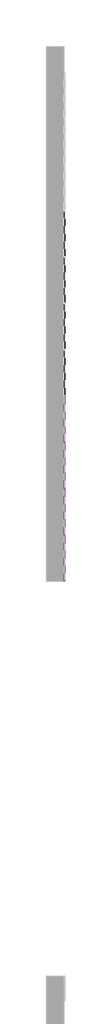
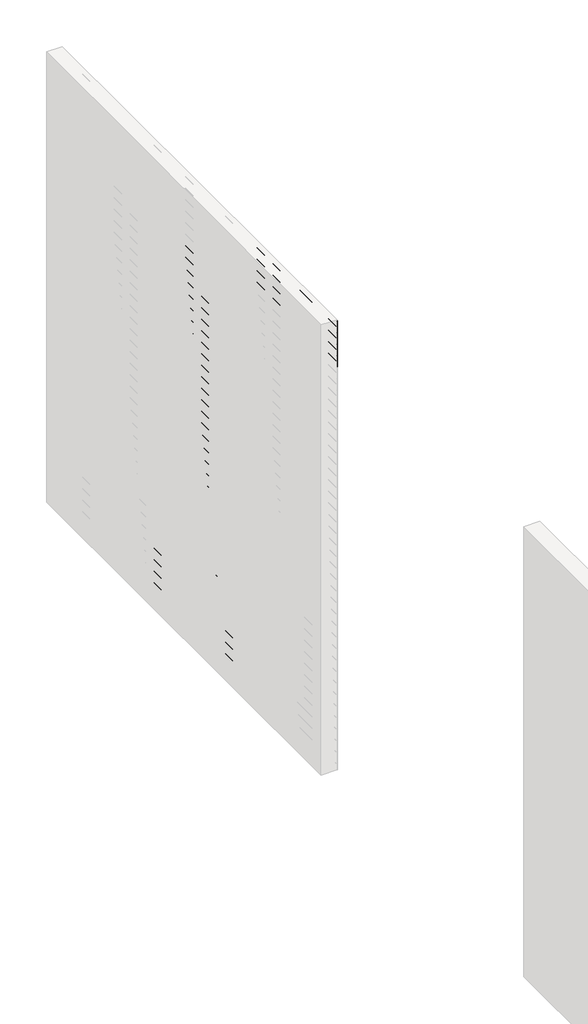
# One storey, part 13 of 45: 147 proxies.
"""IFC4 building model written with IfcOpenShell, lengths in millimetres."""

from ifc_helpers import new_model, si_unit, origin, place, context, project, spatial, transform, mapped, element, save
from components import generic_models_c1e678a0

model = new_model("IFC4")

# Units and contexts
model_context = context("Model", 3, world=origin())
ifc_project = project(units=[si_unit("LENGTHUNIT", "METRE", prefix="MILLI")], contexts=[model_context])

# Site, building, storey
site = spatial("IfcSite", under=ifc_project)
building = spatial("IfcBuilding", under=site)
storey = spatial("IfcBuildingStorey", under=building, Name="PORTOBELLO - SHOWROOM", Elevation=0.0)

# Proxies
placement = place(None, origin())
generic_models_shape = generic_models_c1e678a0(model_context)
element("IfcBuildingElementProxy", 1, Name="PBSHOP - HORIZONTES TULUM 6,5X23 : TULUM FENDA", ObjectType="PBSHOP - HORIZONTES TULUM 6,5X23 : TULUM FENDA", at=placement, inside=storey, context=model_context, shape_type="MappedRepresentation", body=[
    mapped(generic_models_shape, transform((63939.1036979, 16122.0588567, 34.5), x_axis=(0.0, 0.0, 1.0), y_axis=(0.0, -1.0, 0.0), z_axis=(1.0, 0.0, 0.0))),
])
element("IfcBuildingElementProxy", 2, Name="PBSHOP - HORIZONTES TULUM 6,5X23 : TULUM FENDA", ObjectType="PBSHOP - HORIZONTES TULUM 6,5X23 : TULUM FENDA", at=placement, inside=storey, context=model_context, shape_type="MappedRepresentation", body=[
    mapped(generic_models_shape, transform((63939.1036979, 16356.0588567, 34.5), x_axis=(0.0, 0.0, 1.0), y_axis=(0.0, -1.0, 0.0), z_axis=(1.0, 0.0, 0.0))),
])
element("IfcBuildingElementProxy", 3, Name="PBSHOP - HORIZONTES TULUM 6,5X23 : TULUM FENDA", ObjectType="PBSHOP - HORIZONTES TULUM 6,5X23 : TULUM FENDA", at=placement, inside=storey, context=model_context, shape_type="MappedRepresentation", body=[
    mapped(generic_models_shape, transform((63939.1036979, 16590.0588567, 34.5), x_axis=(0.0, 0.0, 1.0), y_axis=(0.0, -1.0, 0.0), z_axis=(1.0, 0.0, 0.0))),
])
element("IfcBuildingElementProxy", 4, Name="PBSHOP - HORIZONTES TULUM 6,5X23 : TULUM FENDA", ObjectType="PBSHOP - HORIZONTES TULUM 6,5X23 : TULUM FENDA", at=placement, inside=storey, context=model_context, shape_type="MappedRepresentation", body=[
    mapped(generic_models_shape, transform((63939.1036979, 16824.0588567, 34.5), x_axis=(0.0, 0.0, 1.0), y_axis=(0.0, -1.0, 0.0), z_axis=(1.0, 0.0, 0.0))),
])
element("IfcBuildingElementProxy", 5, Name="PBSHOP - HORIZONTES TULUM 6,5X23 : TULUM FENDA", ObjectType="PBSHOP - HORIZONTES TULUM 6,5X23 : TULUM FENDA", at=placement, inside=storey, context=model_context, shape_type="MappedRepresentation", body=[
    mapped(generic_models_shape, transform((63939.1036979, 16122.0588567, 103.5), x_axis=(0.0, 0.0, 1.0), y_axis=(0.0, -1.0, 0.0), z_axis=(1.0, 0.0, 0.0))),
])
element("IfcBuildingElementProxy", 6, Name="PBSHOP - HORIZONTES TULUM 6,5X23 : TULUM FENDA", ObjectType="PBSHOP - HORIZONTES TULUM 6,5X23 : TULUM FENDA", at=placement, inside=storey, context=model_context, shape_type="MappedRepresentation", body=[
    mapped(generic_models_shape, transform((63939.1036979, 16356.0588567, 103.5), x_axis=(0.0, 0.0, 1.0), y_axis=(0.0, -1.0, 0.0), z_axis=(1.0, 0.0, 0.0))),
])
element("IfcBuildingElementProxy", 7, Name="PBSHOP - HORIZONTES TULUM 6,5X23 : TULUM FENDA", ObjectType="PBSHOP - HORIZONTES TULUM 6,5X23 : TULUM FENDA", at=placement, inside=storey, context=model_context, shape_type="MappedRepresentation", body=[
    mapped(generic_models_shape, transform((63939.1036979, 16590.0588567, 103.5), x_axis=(0.0, 0.0, 1.0), y_axis=(0.0, -1.0, 0.0), z_axis=(1.0, 0.0, 0.0))),
])
element("IfcBuildingElementProxy", 8, Name="PBSHOP - HORIZONTES TULUM 6,5X23 : TULUM FENDA", ObjectType="PBSHOP - HORIZONTES TULUM 6,5X23 : TULUM FENDA", at=placement, inside=storey, context=model_context, shape_type="MappedRepresentation", body=[
    mapped(generic_models_shape, transform((63939.1036979, 16824.0588567, 103.5), x_axis=(0.0, 0.0, 1.0), y_axis=(0.0, -1.0, 0.0), z_axis=(1.0, 0.0, 0.0))),
])
element("IfcBuildingElementProxy", 9, Name="PBSHOP - HORIZONTES TULUM 6,5X23 : TULUM FENDA", ObjectType="PBSHOP - HORIZONTES TULUM 6,5X23 : TULUM FENDA", at=placement, inside=storey, context=model_context, shape_type="MappedRepresentation", body=[
    mapped(generic_models_shape, transform((63939.1036979, 16122.0588567, 172.5), x_axis=(0.0, 0.0, 1.0), y_axis=(0.0, -1.0, 0.0), z_axis=(1.0, 0.0, 0.0))),
])
element("IfcBuildingElementProxy", 10, Name="PBSHOP - HORIZONTES TULUM 6,5X23 : TULUM FENDA", ObjectType="PBSHOP - HORIZONTES TULUM 6,5X23 : TULUM FENDA", at=placement, inside=storey, context=model_context, shape_type="MappedRepresentation", body=[
    mapped(generic_models_shape, transform((63939.1036979, 16356.0588567, 172.5), x_axis=(0.0, 0.0, 1.0), y_axis=(0.0, -1.0, 0.0), z_axis=(1.0, 0.0, 0.0))),
])
element("IfcBuildingElementProxy", 11, Name="PBSHOP - HORIZONTES TULUM 6,5X23 : TULUM FENDA", ObjectType="PBSHOP - HORIZONTES TULUM 6,5X23 : TULUM FENDA", at=placement, inside=storey, context=model_context, shape_type="MappedRepresentation", body=[
    mapped(generic_models_shape, transform((63939.1036979, 16590.0588567, 172.5), x_axis=(0.0, 0.0, 1.0), y_axis=(0.0, -1.0, 0.0), z_axis=(1.0, 0.0, 0.0))),
])
element("IfcBuildingElementProxy", 12, Name="PBSHOP - HORIZONTES TULUM 6,5X23 : TULUM FENDA", ObjectType="PBSHOP - HORIZONTES TULUM 6,5X23 : TULUM FENDA", at=placement, inside=storey, context=model_context, shape_type="MappedRepresentation", body=[
    mapped(generic_models_shape, transform((63939.1036979, 16824.0588567, 172.5), x_axis=(0.0, 0.0, 1.0), y_axis=(0.0, -1.0, 0.0), z_axis=(1.0, 0.0, 0.0))),
])
element("IfcBuildingElementProxy", 13, Name="PBSHOP - HORIZONTES TULUM 6,5X23 : TULUM FENDA", ObjectType="PBSHOP - HORIZONTES TULUM 6,5X23 : TULUM FENDA", at=placement, inside=storey, context=model_context, shape_type="MappedRepresentation", body=[
    mapped(generic_models_shape, transform((63939.1036979, 16122.0588567, 241.5), x_axis=(0.0, 0.0, 1.0), y_axis=(0.0, -1.0, 0.0), z_axis=(1.0, 0.0, 0.0))),
])
element("IfcBuildingElementProxy", 14, Name="PBSHOP - HORIZONTES TULUM 6,5X23 : TULUM FENDA", ObjectType="PBSHOP - HORIZONTES TULUM 6,5X23 : TULUM FENDA", at=placement, inside=storey, context=model_context, shape_type="MappedRepresentation", body=[
    mapped(generic_models_shape, transform((63939.1036979, 16356.0588567, 241.5), x_axis=(0.0, 0.0, 1.0), y_axis=(0.0, -1.0, 0.0), z_axis=(1.0, 0.0, 0.0))),
])
element("IfcBuildingElementProxy", 15, Name="PBSHOP - HORIZONTES TULUM 6,5X23 : TULUM FENDA", ObjectType="PBSHOP - HORIZONTES TULUM 6,5X23 : TULUM FENDA", at=placement, inside=storey, context=model_context, shape_type="MappedRepresentation", body=[
    mapped(generic_models_shape, transform((63939.1036979, 16590.0588567, 241.5), x_axis=(0.0, 0.0, 1.0), y_axis=(0.0, -1.0, 0.0), z_axis=(1.0, 0.0, 0.0))),
])
element("IfcBuildingElementProxy", 16, Name="PBSHOP - HORIZONTES TULUM 6,5X23 : TULUM FENDA", ObjectType="PBSHOP - HORIZONTES TULUM 6,5X23 : TULUM FENDA", at=placement, inside=storey, context=model_context, shape_type="MappedRepresentation", body=[
    mapped(generic_models_shape, transform((63939.1036979, 16824.0588567, 241.5), x_axis=(0.0, 0.0, 1.0), y_axis=(0.0, -1.0, 0.0), z_axis=(1.0, 0.0, 0.0))),
])
element("IfcBuildingElementProxy", 17, Name="PBSHOP - HORIZONTES TULUM 6,5X23 : TULUM FENDA", ObjectType="PBSHOP - HORIZONTES TULUM 6,5X23 : TULUM FENDA", at=placement, inside=storey, context=model_context, shape_type="MappedRepresentation", body=[
    mapped(generic_models_shape, transform((63939.1036979, 16122.0588567, 310.5), x_axis=(0.0, 0.0, 1.0), y_axis=(0.0, -1.0, 0.0), z_axis=(1.0, 0.0, 0.0))),
])
element("IfcBuildingElementProxy", 18, Name="PBSHOP - HORIZONTES TULUM 6,5X23 : TULUM FENDA", ObjectType="PBSHOP - HORIZONTES TULUM 6,5X23 : TULUM FENDA", at=placement, inside=storey, context=model_context, shape_type="MappedRepresentation", body=[
    mapped(generic_models_shape, transform((63939.1036979, 16356.0588567, 310.5), x_axis=(0.0, 0.0, 1.0), y_axis=(0.0, -1.0, 0.0), z_axis=(1.0, 0.0, 0.0))),
])
element("IfcBuildingElementProxy", 19, Name="PBSHOP - HORIZONTES TULUM 6,5X23 : TULUM FENDA", ObjectType="PBSHOP - HORIZONTES TULUM 6,5X23 : TULUM FENDA", at=placement, inside=storey, context=model_context, shape_type="MappedRepresentation", body=[
    mapped(generic_models_shape, transform((63939.1036979, 16590.0588567, 310.5), x_axis=(0.0, 0.0, 1.0), y_axis=(0.0, -1.0, 0.0), z_axis=(1.0, 0.0, 0.0))),
])
element("IfcBuildingElementProxy", 20, Name="PBSHOP - HORIZONTES TULUM 6,5X23 : TULUM FENDA", ObjectType="PBSHOP - HORIZONTES TULUM 6,5X23 : TULUM FENDA", at=placement, inside=storey, context=model_context, shape_type="MappedRepresentation", body=[
    mapped(generic_models_shape, transform((63939.1036979, 16824.0588567, 310.5), x_axis=(0.0, 0.0, 1.0), y_axis=(0.0, -1.0, 0.0), z_axis=(1.0, 0.0, 0.0))),
])
element("IfcBuildingElementProxy", 21, Name="PBSHOP - HORIZONTES TULUM 6,5X23 : TULUM FENDA", ObjectType="PBSHOP - HORIZONTES TULUM 6,5X23 : TULUM FENDA", at=placement, inside=storey, context=model_context, shape_type="MappedRepresentation", body=[
    mapped(generic_models_shape, transform((63939.1036979, 16122.0588567, 379.5), x_axis=(0.0, 0.0, 1.0), y_axis=(0.0, -1.0, 0.0), z_axis=(1.0, 0.0, 0.0))),
])
element("IfcBuildingElementProxy", 22, Name="PBSHOP - HORIZONTES TULUM 6,5X23 : TULUM FENDA", ObjectType="PBSHOP - HORIZONTES TULUM 6,5X23 : TULUM FENDA", at=placement, inside=storey, context=model_context, shape_type="MappedRepresentation", body=[
    mapped(generic_models_shape, transform((63939.1036979, 16356.0588567, 379.5), x_axis=(0.0, 0.0, 1.0), y_axis=(0.0, -1.0, 0.0), z_axis=(1.0, 0.0, 0.0))),
])
element("IfcBuildingElementProxy", 23, Name="PBSHOP - HORIZONTES TULUM 6,5X23 : TULUM FENDA", ObjectType="PBSHOP - HORIZONTES TULUM 6,5X23 : TULUM FENDA", at=placement, inside=storey, context=model_context, shape_type="MappedRepresentation", body=[
    mapped(generic_models_shape, transform((63939.1036979, 16590.0588567, 379.5), x_axis=(0.0, 0.0, 1.0), y_axis=(0.0, -1.0, 0.0), z_axis=(1.0, 0.0, 0.0))),
])
element("IfcBuildingElementProxy", 24, Name="PBSHOP - HORIZONTES TULUM 6,5X23 : TULUM FENDA", ObjectType="PBSHOP - HORIZONTES TULUM 6,5X23 : TULUM FENDA", at=placement, inside=storey, context=model_context, shape_type="MappedRepresentation", body=[
    mapped(generic_models_shape, transform((63939.1036979, 16824.0588567, 379.5), x_axis=(0.0, 0.0, 1.0), y_axis=(0.0, -1.0, 0.0), z_axis=(1.0, 0.0, 0.0))),
])
element("IfcBuildingElementProxy", 25, Name="PBSHOP - HORIZONTES TULUM 6,5X23 : TULUM FENDA", ObjectType="PBSHOP - HORIZONTES TULUM 6,5X23 : TULUM FENDA", at=placement, inside=storey, context=model_context, shape_type="MappedRepresentation", body=[
    mapped(generic_models_shape, transform((63939.1036979, 16122.0588567, 448.5), x_axis=(0.0, 0.0, 1.0), y_axis=(0.0, -1.0, 0.0), z_axis=(1.0, 0.0, 0.0))),
])
element("IfcBuildingElementProxy", 26, Name="PBSHOP - HORIZONTES TULUM 6,5X23 : TULUM FENDA", ObjectType="PBSHOP - HORIZONTES TULUM 6,5X23 : TULUM FENDA", at=placement, inside=storey, context=model_context, shape_type="MappedRepresentation", body=[
    mapped(generic_models_shape, transform((63939.1036979, 16356.0588567, 448.5), x_axis=(0.0, 0.0, 1.0), y_axis=(0.0, -1.0, 0.0), z_axis=(1.0, 0.0, 0.0))),
])
element("IfcBuildingElementProxy", 27, Name="PBSHOP - HORIZONTES TULUM 6,5X23 : TULUM FENDA", ObjectType="PBSHOP - HORIZONTES TULUM 6,5X23 : TULUM FENDA", at=placement, inside=storey, context=model_context, shape_type="MappedRepresentation", body=[
    mapped(generic_models_shape, transform((63939.1036979, 16590.0588567, 448.5), x_axis=(0.0, 0.0, 1.0), y_axis=(0.0, -1.0, 0.0), z_axis=(1.0, 0.0, 0.0))),
])
element("IfcBuildingElementProxy", 28, Name="PBSHOP - HORIZONTES TULUM 6,5X23 : TULUM FENDA", ObjectType="PBSHOP - HORIZONTES TULUM 6,5X23 : TULUM FENDA", at=placement, inside=storey, context=model_context, shape_type="MappedRepresentation", body=[
    mapped(generic_models_shape, transform((63939.1036979, 16824.0588567, 448.5), x_axis=(0.0, 0.0, 1.0), y_axis=(0.0, -1.0, 0.0), z_axis=(1.0, 0.0, 0.0))),
])
element("IfcBuildingElementProxy", 29, Name="PBSHOP - HORIZONTES TULUM 6,5X23 : TULUM FENDA", ObjectType="PBSHOP - HORIZONTES TULUM 6,5X23 : TULUM FENDA", at=placement, inside=storey, context=model_context, shape_type="MappedRepresentation", body=[
    mapped(generic_models_shape, transform((63939.1036979, 16122.0588567, 517.5), x_axis=(0.0, 0.0, 1.0), y_axis=(0.0, -1.0, 0.0), z_axis=(1.0, 0.0, 0.0))),
])
element("IfcBuildingElementProxy", 30, Name="PBSHOP - HORIZONTES TULUM 6,5X23 : TULUM FENDA", ObjectType="PBSHOP - HORIZONTES TULUM 6,5X23 : TULUM FENDA", at=placement, inside=storey, context=model_context, shape_type="MappedRepresentation", body=[
    mapped(generic_models_shape, transform((63939.1036979, 16356.0588567, 517.5), x_axis=(0.0, 0.0, 1.0), y_axis=(0.0, -1.0, 0.0), z_axis=(1.0, 0.0, 0.0))),
])
element("IfcBuildingElementProxy", 31, Name="PBSHOP - HORIZONTES TULUM 6,5X23 : TULUM FENDA", ObjectType="PBSHOP - HORIZONTES TULUM 6,5X23 : TULUM FENDA", at=placement, inside=storey, context=model_context, shape_type="MappedRepresentation", body=[
    mapped(generic_models_shape, transform((63939.1036979, 16590.0588567, 517.5), x_axis=(0.0, 0.0, 1.0), y_axis=(0.0, -1.0, 0.0), z_axis=(1.0, 0.0, 0.0))),
])
element("IfcBuildingElementProxy", 32, Name="PBSHOP - HORIZONTES TULUM 6,5X23 : TULUM FENDA", ObjectType="PBSHOP - HORIZONTES TULUM 6,5X23 : TULUM FENDA", at=placement, inside=storey, context=model_context, shape_type="MappedRepresentation", body=[
    mapped(generic_models_shape, transform((63939.1036979, 16824.0588567, 517.5), x_axis=(0.0, 0.0, 1.0), y_axis=(0.0, -1.0, 0.0), z_axis=(1.0, 0.0, 0.0))),
])
element("IfcBuildingElementProxy", 33, Name="PBSHOP - HORIZONTES TULUM 6,5X23 : TULUM FENDA", ObjectType="PBSHOP - HORIZONTES TULUM 6,5X23 : TULUM FENDA", at=placement, inside=storey, context=model_context, shape_type="MappedRepresentation", body=[
    mapped(generic_models_shape, transform((63939.1036979, 16122.0588567, 586.5), x_axis=(0.0, 0.0, 1.0), y_axis=(0.0, -1.0, 0.0), z_axis=(1.0, 0.0, 0.0))),
])
element("IfcBuildingElementProxy", 34, Name="PBSHOP - HORIZONTES TULUM 6,5X23 : TULUM FENDA", ObjectType="PBSHOP - HORIZONTES TULUM 6,5X23 : TULUM FENDA", at=placement, inside=storey, context=model_context, shape_type="MappedRepresentation", body=[
    mapped(generic_models_shape, transform((63939.1036979, 16356.0588567, 586.5), x_axis=(0.0, 0.0, 1.0), y_axis=(0.0, -1.0, 0.0), z_axis=(1.0, 0.0, 0.0))),
])
element("IfcBuildingElementProxy", 35, Name="PBSHOP - HORIZONTES TULUM 6,5X23 : TULUM FENDA", ObjectType="PBSHOP - HORIZONTES TULUM 6,5X23 : TULUM FENDA", at=placement, inside=storey, context=model_context, shape_type="MappedRepresentation", body=[
    mapped(generic_models_shape, transform((63939.1036979, 16590.0588567, 586.5), x_axis=(0.0, 0.0, 1.0), y_axis=(0.0, -1.0, 0.0), z_axis=(1.0, 0.0, 0.0))),
])
element("IfcBuildingElementProxy", 36, Name="PBSHOP - HORIZONTES TULUM 6,5X23 : TULUM FENDA", ObjectType="PBSHOP - HORIZONTES TULUM 6,5X23 : TULUM FENDA", at=placement, inside=storey, context=model_context, shape_type="MappedRepresentation", body=[
    mapped(generic_models_shape, transform((63939.1036979, 16824.0588567, 586.5), x_axis=(0.0, 0.0, 1.0), y_axis=(0.0, -1.0, 0.0), z_axis=(1.0, 0.0, 0.0))),
])
element("IfcBuildingElementProxy", 37, Name="PBSHOP - HORIZONTES TULUM 6,5X23 : TULUM FENDA", ObjectType="PBSHOP - HORIZONTES TULUM 6,5X23 : TULUM FENDA", at=placement, inside=storey, context=model_context, shape_type="MappedRepresentation", body=[
    mapped(generic_models_shape, transform((63939.1036979, 16122.0588567, 655.5), x_axis=(0.0, 0.0, 1.0), y_axis=(0.0, -1.0, 0.0), z_axis=(1.0, 0.0, 0.0))),
])
element("IfcBuildingElementProxy", 38, Name="PBSHOP - HORIZONTES TULUM 6,5X23 : TULUM FENDA", ObjectType="PBSHOP - HORIZONTES TULUM 6,5X23 : TULUM FENDA", at=placement, inside=storey, context=model_context, shape_type="MappedRepresentation", body=[
    mapped(generic_models_shape, transform((63939.1036979, 16356.0588567, 655.5), x_axis=(0.0, 0.0, 1.0), y_axis=(0.0, -1.0, 0.0), z_axis=(1.0, 0.0, 0.0))),
])
element("IfcBuildingElementProxy", 39, Name="PBSHOP - HORIZONTES TULUM 6,5X23 : TULUM FENDA", ObjectType="PBSHOP - HORIZONTES TULUM 6,5X23 : TULUM FENDA", at=placement, inside=storey, context=model_context, shape_type="MappedRepresentation", body=[
    mapped(generic_models_shape, transform((63939.1036979, 16590.0588567, 655.5), x_axis=(0.0, 0.0, 1.0), y_axis=(0.0, -1.0, 0.0), z_axis=(1.0, 0.0, 0.0))),
])
element("IfcBuildingElementProxy", 40, Name="PBSHOP - HORIZONTES TULUM 6,5X23 : TULUM FENDA", ObjectType="PBSHOP - HORIZONTES TULUM 6,5X23 : TULUM FENDA", at=placement, inside=storey, context=model_context, shape_type="MappedRepresentation", body=[
    mapped(generic_models_shape, transform((63939.1036979, 16824.0588567, 655.5), x_axis=(0.0, 0.0, 1.0), y_axis=(0.0, -1.0, 0.0), z_axis=(1.0, 0.0, 0.0))),
])
element("IfcBuildingElementProxy", 41, Name="PBSHOP - HORIZONTES TULUM 6,5X23 : TULUM FENDA", ObjectType="PBSHOP - HORIZONTES TULUM 6,5X23 : TULUM FENDA", at=placement, inside=storey, context=model_context, shape_type="MappedRepresentation", body=[
    mapped(generic_models_shape, transform((63939.1036979, 16122.0588567, 724.5), x_axis=(0.0, 0.0, 1.0), y_axis=(0.0, -1.0, 0.0), z_axis=(1.0, 0.0, 0.0))),
])
element("IfcBuildingElementProxy", 42, Name="PBSHOP - HORIZONTES TULUM 6,5X23 : TULUM FENDA", ObjectType="PBSHOP - HORIZONTES TULUM 6,5X23 : TULUM FENDA", at=placement, inside=storey, context=model_context, shape_type="MappedRepresentation", body=[
    mapped(generic_models_shape, transform((63939.1036979, 16356.0588567, 724.5), x_axis=(0.0, 0.0, 1.0), y_axis=(0.0, -1.0, 0.0), z_axis=(1.0, 0.0, 0.0))),
])
element("IfcBuildingElementProxy", 43, Name="PBSHOP - HORIZONTES TULUM 6,5X23 : TULUM FENDA", ObjectType="PBSHOP - HORIZONTES TULUM 6,5X23 : TULUM FENDA", at=placement, inside=storey, context=model_context, shape_type="MappedRepresentation", body=[
    mapped(generic_models_shape, transform((63939.1036979, 16590.0588567, 724.5), x_axis=(0.0, 0.0, 1.0), y_axis=(0.0, -1.0, 0.0), z_axis=(1.0, 0.0, 0.0))),
])
element("IfcBuildingElementProxy", 44, Name="PBSHOP - HORIZONTES TULUM 6,5X23 : TULUM FENDA", ObjectType="PBSHOP - HORIZONTES TULUM 6,5X23 : TULUM FENDA", at=placement, inside=storey, context=model_context, shape_type="MappedRepresentation", body=[
    mapped(generic_models_shape, transform((63939.1036979, 16824.0588567, 724.5), x_axis=(0.0, 0.0, 1.0), y_axis=(0.0, -1.0, 0.0), z_axis=(1.0, 0.0, 0.0))),
])
element("IfcBuildingElementProxy", 45, Name="PBSHOP - HORIZONTES TULUM 6,5X23 : TULUM FENDA", ObjectType="PBSHOP - HORIZONTES TULUM 6,5X23 : TULUM FENDA", at=placement, inside=storey, context=model_context, shape_type="MappedRepresentation", body=[
    mapped(generic_models_shape, transform((63939.1036979, 16122.0588567, 793.5), x_axis=(0.0, 0.0, 1.0), y_axis=(0.0, -1.0, 0.0), z_axis=(1.0, 0.0, 0.0))),
])
element("IfcBuildingElementProxy", 46, Name="PBSHOP - HORIZONTES TULUM 6,5X23 : TULUM FENDA", ObjectType="PBSHOP - HORIZONTES TULUM 6,5X23 : TULUM FENDA", at=placement, inside=storey, context=model_context, shape_type="MappedRepresentation", body=[
    mapped(generic_models_shape, transform((63939.1036979, 16356.0588567, 793.5), x_axis=(0.0, 0.0, 1.0), y_axis=(0.0, -1.0, 0.0), z_axis=(1.0, 0.0, 0.0))),
])
element("IfcBuildingElementProxy", 47, Name="PBSHOP - HORIZONTES TULUM 6,5X23 : TULUM FENDA", ObjectType="PBSHOP - HORIZONTES TULUM 6,5X23 : TULUM FENDA", at=placement, inside=storey, context=model_context, shape_type="MappedRepresentation", body=[
    mapped(generic_models_shape, transform((63939.1036979, 16590.0588567, 793.5), x_axis=(0.0, 0.0, 1.0), y_axis=(0.0, -1.0, 0.0), z_axis=(1.0, 0.0, 0.0))),
])
element("IfcBuildingElementProxy", 48, Name="PBSHOP - HORIZONTES TULUM 6,5X23 : TULUM FENDA", ObjectType="PBSHOP - HORIZONTES TULUM 6,5X23 : TULUM FENDA", at=placement, inside=storey, context=model_context, shape_type="MappedRepresentation", body=[
    mapped(generic_models_shape, transform((63939.1036979, 16824.0588567, 793.5), x_axis=(0.0, 0.0, 1.0), y_axis=(0.0, -1.0, 0.0), z_axis=(1.0, 0.0, 0.0))),
])
element("IfcBuildingElementProxy", 49, Name="PBSHOP - HORIZONTES TULUM 6,5X23 : TULUM FENDA", ObjectType="PBSHOP - HORIZONTES TULUM 6,5X23 : TULUM FENDA", at=placement, inside=storey, context=model_context, shape_type="MappedRepresentation", body=[
    mapped(generic_models_shape, transform((63939.1036979, 16122.0588567, 862.5), x_axis=(0.0, 0.0, 1.0), y_axis=(0.0, -1.0, 0.0), z_axis=(1.0, 0.0, 0.0))),
])
element("IfcBuildingElementProxy", 50, Name="PBSHOP - HORIZONTES TULUM 6,5X23 : TULUM FENDA", ObjectType="PBSHOP - HORIZONTES TULUM 6,5X23 : TULUM FENDA", at=placement, inside=storey, context=model_context, shape_type="MappedRepresentation", body=[
    mapped(generic_models_shape, transform((63939.1036979, 16356.0588567, 862.5), x_axis=(0.0, 0.0, 1.0), y_axis=(0.0, -1.0, 0.0), z_axis=(1.0, 0.0, 0.0))),
])
element("IfcBuildingElementProxy", 51, Name="PBSHOP - HORIZONTES TULUM 6,5X23 : TULUM FENDA", ObjectType="PBSHOP - HORIZONTES TULUM 6,5X23 : TULUM FENDA", at=placement, inside=storey, context=model_context, shape_type="MappedRepresentation", body=[
    mapped(generic_models_shape, transform((63939.1036979, 16590.0588567, 862.5), x_axis=(0.0, 0.0, 1.0), y_axis=(0.0, -1.0, 0.0), z_axis=(1.0, 0.0, 0.0))),
])
element("IfcBuildingElementProxy", 52, Name="PBSHOP - HORIZONTES TULUM 6,5X23 : TULUM FENDA", ObjectType="PBSHOP - HORIZONTES TULUM 6,5X23 : TULUM FENDA", at=placement, inside=storey, context=model_context, shape_type="MappedRepresentation", body=[
    mapped(generic_models_shape, transform((63939.1036979, 16824.0588567, 862.5), x_axis=(0.0, 0.0, 1.0), y_axis=(0.0, -1.0, 0.0), z_axis=(1.0, 0.0, 0.0))),
])
element("IfcBuildingElementProxy", 53, Name="PBSHOP - HORIZONTES TULUM 6,5X23 : TULUM FENDA", ObjectType="PBSHOP - HORIZONTES TULUM 6,5X23 : TULUM FENDA", at=placement, inside=storey, context=model_context, shape_type="MappedRepresentation", body=[
    mapped(generic_models_shape, transform((63939.1036979, 16122.0588567, 931.5), x_axis=(0.0, 0.0, 1.0), y_axis=(0.0, -1.0, 0.0), z_axis=(1.0, 0.0, 0.0))),
])
element("IfcBuildingElementProxy", 54, Name="PBSHOP - HORIZONTES TULUM 6,5X23 : TULUM FENDA", ObjectType="PBSHOP - HORIZONTES TULUM 6,5X23 : TULUM FENDA", at=placement, inside=storey, context=model_context, shape_type="MappedRepresentation", body=[
    mapped(generic_models_shape, transform((63939.1036979, 16356.0588567, 931.5), x_axis=(0.0, 0.0, 1.0), y_axis=(0.0, -1.0, 0.0), z_axis=(1.0, 0.0, 0.0))),
])
element("IfcBuildingElementProxy", 55, Name="PBSHOP - HORIZONTES TULUM 6,5X23 : TULUM FENDA", ObjectType="PBSHOP - HORIZONTES TULUM 6,5X23 : TULUM FENDA", at=placement, inside=storey, context=model_context, shape_type="MappedRepresentation", body=[
    mapped(generic_models_shape, transform((63939.1036979, 16590.0588567, 931.5), x_axis=(0.0, 0.0, 1.0), y_axis=(0.0, -1.0, 0.0), z_axis=(1.0, 0.0, 0.0))),
])
element("IfcBuildingElementProxy", 56, Name="PBSHOP - HORIZONTES TULUM 6,5X23 : TULUM FENDA", ObjectType="PBSHOP - HORIZONTES TULUM 6,5X23 : TULUM FENDA", at=placement, inside=storey, context=model_context, shape_type="MappedRepresentation", body=[
    mapped(generic_models_shape, transform((63939.1036979, 16824.0588567, 931.5), x_axis=(0.0, 0.0, 1.0), y_axis=(0.0, -1.0, 0.0), z_axis=(1.0, 0.0, 0.0))),
])
element("IfcBuildingElementProxy", 57, Name="PBSHOP - HORIZONTES TULUM 6,5X23 : TULUM FENDA", ObjectType="PBSHOP - HORIZONTES TULUM 6,5X23 : TULUM FENDA", at=placement, inside=storey, context=model_context, shape_type="MappedRepresentation", body=[
    mapped(generic_models_shape, transform((63939.1036979, 16122.0588567, 1000.5), x_axis=(0.0, 0.0, 1.0), y_axis=(0.0, -1.0, 0.0), z_axis=(1.0, 0.0, 0.0))),
])
element("IfcBuildingElementProxy", 58, Name="PBSHOP - HORIZONTES TULUM 6,5X23 : TULUM FENDA", ObjectType="PBSHOP - HORIZONTES TULUM 6,5X23 : TULUM FENDA", at=placement, inside=storey, context=model_context, shape_type="MappedRepresentation", body=[
    mapped(generic_models_shape, transform((63939.1036979, 16356.0588567, 1000.5), x_axis=(0.0, 0.0, 1.0), y_axis=(0.0, -1.0, 0.0), z_axis=(1.0, 0.0, 0.0))),
])
element("IfcBuildingElementProxy", 59, Name="PBSHOP - HORIZONTES TULUM 6,5X23 : TULUM FENDA", ObjectType="PBSHOP - HORIZONTES TULUM 6,5X23 : TULUM FENDA", at=placement, inside=storey, context=model_context, shape_type="MappedRepresentation", body=[
    mapped(generic_models_shape, transform((63939.1036979, 16590.0588567, 1000.5), x_axis=(0.0, 0.0, 1.0), y_axis=(0.0, -1.0, 0.0), z_axis=(1.0, 0.0, 0.0))),
])
element("IfcBuildingElementProxy", 60, Name="PBSHOP - HORIZONTES TULUM 6,5X23 : TULUM FENDA", ObjectType="PBSHOP - HORIZONTES TULUM 6,5X23 : TULUM FENDA", at=placement, inside=storey, context=model_context, shape_type="MappedRepresentation", body=[
    mapped(generic_models_shape, transform((63939.1036979, 16824.0588567, 1000.5), x_axis=(0.0, 0.0, 1.0), y_axis=(0.0, -1.0, 0.0), z_axis=(1.0, 0.0, 0.0))),
])
element("IfcBuildingElementProxy", 61, Name="PBSHOP - HORIZONTES TULUM 6,5X23 : TULUM FENDA", ObjectType="PBSHOP - HORIZONTES TULUM 6,5X23 : TULUM FENDA", at=placement, inside=storey, context=model_context, shape_type="MappedRepresentation", body=[
    mapped(generic_models_shape, transform((63939.1036979, 16122.0588567, 1069.5), x_axis=(0.0, 0.0, 1.0), y_axis=(0.0, -1.0, 0.0), z_axis=(1.0, 0.0, 0.0))),
])
element("IfcBuildingElementProxy", 62, Name="PBSHOP - HORIZONTES TULUM 6,5X23 : TULUM FENDA", ObjectType="PBSHOP - HORIZONTES TULUM 6,5X23 : TULUM FENDA", at=placement, inside=storey, context=model_context, shape_type="MappedRepresentation", body=[
    mapped(generic_models_shape, transform((63939.1036979, 16356.0588567, 1069.5), x_axis=(0.0, 0.0, 1.0), y_axis=(0.0, -1.0, 0.0), z_axis=(1.0, 0.0, 0.0))),
])
element("IfcBuildingElementProxy", 63, Name="PBSHOP - HORIZONTES TULUM 6,5X23 : TULUM FENDA", ObjectType="PBSHOP - HORIZONTES TULUM 6,5X23 : TULUM FENDA", at=placement, inside=storey, context=model_context, shape_type="MappedRepresentation", body=[
    mapped(generic_models_shape, transform((63939.1036979, 16590.0588567, 1069.5), x_axis=(0.0, 0.0, 1.0), y_axis=(0.0, -1.0, 0.0), z_axis=(1.0, 0.0, 0.0))),
])
element("IfcBuildingElementProxy", 64, Name="PBSHOP - HORIZONTES TULUM 6,5X23 : TULUM FENDA", ObjectType="PBSHOP - HORIZONTES TULUM 6,5X23 : TULUM FENDA", at=placement, inside=storey, context=model_context, shape_type="MappedRepresentation", body=[
    mapped(generic_models_shape, transform((63939.1036979, 16824.0588567, 1069.5), x_axis=(0.0, 0.0, 1.0), y_axis=(0.0, -1.0, 0.0), z_axis=(1.0, 0.0, 0.0))),
])
element("IfcBuildingElementProxy", 65, Name="PBSHOP - HORIZONTES TULUM 6,5X23 : TULUM FENDA", ObjectType="PBSHOP - HORIZONTES TULUM 6,5X23 : TULUM FENDA", at=placement, inside=storey, context=model_context, shape_type="MappedRepresentation", body=[
    mapped(generic_models_shape, transform((63939.1036979, 16122.0588567, 1138.5), x_axis=(0.0, 0.0, 1.0), y_axis=(0.0, -1.0, 0.0), z_axis=(1.0, 0.0, 0.0))),
])
element("IfcBuildingElementProxy", 66, Name="PBSHOP - HORIZONTES TULUM 6,5X23 : TULUM FENDA", ObjectType="PBSHOP - HORIZONTES TULUM 6,5X23 : TULUM FENDA", at=placement, inside=storey, context=model_context, shape_type="MappedRepresentation", body=[
    mapped(generic_models_shape, transform((63939.1036979, 16356.0588567, 1138.5), x_axis=(0.0, 0.0, 1.0), y_axis=(0.0, -1.0, 0.0), z_axis=(1.0, 0.0, 0.0))),
])
element("IfcBuildingElementProxy", 67, Name="PBSHOP - HORIZONTES TULUM 6,5X23 : TULUM FENDA", ObjectType="PBSHOP - HORIZONTES TULUM 6,5X23 : TULUM FENDA", at=placement, inside=storey, context=model_context, shape_type="MappedRepresentation", body=[
    mapped(generic_models_shape, transform((63939.1036979, 16590.0588567, 1138.5), x_axis=(0.0, 0.0, 1.0), y_axis=(0.0, -1.0, 0.0), z_axis=(1.0, 0.0, 0.0))),
])
element("IfcBuildingElementProxy", 68, Name="PBSHOP - HORIZONTES TULUM 6,5X23 : TULUM FENDA", ObjectType="PBSHOP - HORIZONTES TULUM 6,5X23 : TULUM FENDA", at=placement, inside=storey, context=model_context, shape_type="MappedRepresentation", body=[
    mapped(generic_models_shape, transform((63939.1036979, 16824.0588567, 1138.5), x_axis=(0.0, 0.0, 1.0), y_axis=(0.0, -1.0, 0.0), z_axis=(1.0, 0.0, 0.0))),
])
element("IfcBuildingElementProxy", 69, Name="PBSHOP - HORIZONTES TULUM 6,5X23 : TULUM FENDA", ObjectType="PBSHOP - HORIZONTES TULUM 6,5X23 : TULUM FENDA", at=placement, inside=storey, context=model_context, shape_type="MappedRepresentation", body=[
    mapped(generic_models_shape, transform((63939.1036979, 16122.0588567, 1207.5), x_axis=(0.0, 0.0, 1.0), y_axis=(0.0, -1.0, 0.0), z_axis=(1.0, 0.0, 0.0))),
])
element("IfcBuildingElementProxy", 70, Name="PBSHOP - HORIZONTES TULUM 6,5X23 : TULUM FENDA", ObjectType="PBSHOP - HORIZONTES TULUM 6,5X23 : TULUM FENDA", at=placement, inside=storey, context=model_context, shape_type="MappedRepresentation", body=[
    mapped(generic_models_shape, transform((63939.1036979, 16356.0588567, 1207.5), x_axis=(0.0, 0.0, 1.0), y_axis=(0.0, -1.0, 0.0), z_axis=(1.0, 0.0, 0.0))),
])
element("IfcBuildingElementProxy", 71, Name="PBSHOP - HORIZONTES TULUM 6,5X23 : TULUM FENDA", ObjectType="PBSHOP - HORIZONTES TULUM 6,5X23 : TULUM FENDA", at=placement, inside=storey, context=model_context, shape_type="MappedRepresentation", body=[
    mapped(generic_models_shape, transform((63939.1036979, 16590.0588567, 1207.5), x_axis=(0.0, 0.0, 1.0), y_axis=(0.0, -1.0, 0.0), z_axis=(1.0, 0.0, 0.0))),
])
element("IfcBuildingElementProxy", 72, Name="PBSHOP - HORIZONTES TULUM 6,5X23 : TULUM FENDA", ObjectType="PBSHOP - HORIZONTES TULUM 6,5X23 : TULUM FENDA", at=placement, inside=storey, context=model_context, shape_type="MappedRepresentation", body=[
    mapped(generic_models_shape, transform((63939.1036979, 16824.0588567, 1207.5), x_axis=(0.0, 0.0, 1.0), y_axis=(0.0, -1.0, 0.0), z_axis=(1.0, 0.0, 0.0))),
])
element("IfcBuildingElementProxy", 73, Name="PBSHOP - HORIZONTES TULUM 6,5X23 : TULUM FENDA", ObjectType="PBSHOP - HORIZONTES TULUM 6,5X23 : TULUM FENDA", at=placement, inside=storey, context=model_context, shape_type="MappedRepresentation", body=[
    mapped(generic_models_shape, transform((63939.1036979, 16122.0588567, 1276.5), x_axis=(0.0, 0.0, 1.0), y_axis=(0.0, -1.0, 0.0), z_axis=(1.0, 0.0, 0.0))),
])
element("IfcBuildingElementProxy", 74, Name="PBSHOP - HORIZONTES TULUM 6,5X23 : TULUM FENDA", ObjectType="PBSHOP - HORIZONTES TULUM 6,5X23 : TULUM FENDA", at=placement, inside=storey, context=model_context, shape_type="MappedRepresentation", body=[
    mapped(generic_models_shape, transform((63939.1036979, 16356.0588567, 1276.5), x_axis=(0.0, 0.0, 1.0), y_axis=(0.0, -1.0, 0.0), z_axis=(1.0, 0.0, 0.0))),
])
element("IfcBuildingElementProxy", 75, Name="PBSHOP - HORIZONTES TULUM 6,5X23 : TULUM FENDA", ObjectType="PBSHOP - HORIZONTES TULUM 6,5X23 : TULUM FENDA", at=placement, inside=storey, context=model_context, shape_type="MappedRepresentation", body=[
    mapped(generic_models_shape, transform((63939.1036979, 16590.0588567, 1276.5), x_axis=(0.0, 0.0, 1.0), y_axis=(0.0, -1.0, 0.0), z_axis=(1.0, 0.0, 0.0))),
])
element("IfcBuildingElementProxy", 76, Name="PBSHOP - HORIZONTES TULUM 6,5X23 : TULUM FENDA", ObjectType="PBSHOP - HORIZONTES TULUM 6,5X23 : TULUM FENDA", at=placement, inside=storey, context=model_context, shape_type="MappedRepresentation", body=[
    mapped(generic_models_shape, transform((63939.1036979, 16824.0588567, 1276.5), x_axis=(0.0, 0.0, 1.0), y_axis=(0.0, -1.0, 0.0), z_axis=(1.0, 0.0, 0.0))),
])
element("IfcBuildingElementProxy", 77, Name="PBSHOP - HORIZONTES TULUM 6,5X23 : TULUM FENDA", ObjectType="PBSHOP - HORIZONTES TULUM 6,5X23 : TULUM FENDA", at=placement, inside=storey, context=model_context, shape_type="MappedRepresentation", body=[
    mapped(generic_models_shape, transform((63939.1036979, 16122.0588567, 1345.5), x_axis=(0.0, 0.0, 1.0), y_axis=(0.0, -1.0, 0.0), z_axis=(1.0, 0.0, 0.0))),
])
element("IfcBuildingElementProxy", 78, Name="PBSHOP - HORIZONTES TULUM 6,5X23 : TULUM FENDA", ObjectType="PBSHOP - HORIZONTES TULUM 6,5X23 : TULUM FENDA", at=placement, inside=storey, context=model_context, shape_type="MappedRepresentation", body=[
    mapped(generic_models_shape, transform((63939.1036979, 16356.0588567, 1345.5), x_axis=(0.0, 0.0, 1.0), y_axis=(0.0, -1.0, 0.0), z_axis=(1.0, 0.0, 0.0))),
])
element("IfcBuildingElementProxy", 79, Name="PBSHOP - HORIZONTES TULUM 6,5X23 : TULUM FENDA", ObjectType="PBSHOP - HORIZONTES TULUM 6,5X23 : TULUM FENDA", at=placement, inside=storey, context=model_context, shape_type="MappedRepresentation", body=[
    mapped(generic_models_shape, transform((63939.1036979, 16590.0588567, 1345.5), x_axis=(0.0, 0.0, 1.0), y_axis=(0.0, -1.0, 0.0), z_axis=(1.0, 0.0, 0.0))),
])
element("IfcBuildingElementProxy", 80, Name="PBSHOP - HORIZONTES TULUM 6,5X23 : TULUM FENDA", ObjectType="PBSHOP - HORIZONTES TULUM 6,5X23 : TULUM FENDA", at=placement, inside=storey, context=model_context, shape_type="MappedRepresentation", body=[
    mapped(generic_models_shape, transform((63939.1036979, 16824.0588567, 1345.5), x_axis=(0.0, 0.0, 1.0), y_axis=(0.0, -1.0, 0.0), z_axis=(1.0, 0.0, 0.0))),
])
element("IfcBuildingElementProxy", 81, Name="PBSHOP - HORIZONTES TULUM 6,5X23 : TULUM FENDA", ObjectType="PBSHOP - HORIZONTES TULUM 6,5X23 : TULUM FENDA", at=placement, inside=storey, context=model_context, shape_type="MappedRepresentation", body=[
    mapped(generic_models_shape, transform((63939.1036979, 16122.0588567, 1414.5), x_axis=(0.0, 0.0, 1.0), y_axis=(0.0, -1.0, 0.0), z_axis=(1.0, 0.0, 0.0))),
])
element("IfcBuildingElementProxy", 82, Name="PBSHOP - HORIZONTES TULUM 6,5X23 : TULUM FENDA", ObjectType="PBSHOP - HORIZONTES TULUM 6,5X23 : TULUM FENDA", at=placement, inside=storey, context=model_context, shape_type="MappedRepresentation", body=[
    mapped(generic_models_shape, transform((63939.1036979, 16356.0588567, 1414.5), x_axis=(0.0, 0.0, 1.0), y_axis=(0.0, -1.0, 0.0), z_axis=(1.0, 0.0, 0.0))),
])
element("IfcBuildingElementProxy", 83, Name="PBSHOP - HORIZONTES TULUM 6,5X23 : TULUM FENDA", ObjectType="PBSHOP - HORIZONTES TULUM 6,5X23 : TULUM FENDA", at=placement, inside=storey, context=model_context, shape_type="MappedRepresentation", body=[
    mapped(generic_models_shape, transform((63939.1036979, 16590.0588567, 1414.5), x_axis=(0.0, 0.0, 1.0), y_axis=(0.0, -1.0, 0.0), z_axis=(1.0, 0.0, 0.0))),
])
element("IfcBuildingElementProxy", 84, Name="PBSHOP - HORIZONTES TULUM 6,5X23 : TULUM FENDA", ObjectType="PBSHOP - HORIZONTES TULUM 6,5X23 : TULUM FENDA", at=placement, inside=storey, context=model_context, shape_type="MappedRepresentation", body=[
    mapped(generic_models_shape, transform((63939.1036979, 16824.0588567, 1414.5), x_axis=(0.0, 0.0, 1.0), y_axis=(0.0, -1.0, 0.0), z_axis=(1.0, 0.0, 0.0))),
])
element("IfcBuildingElementProxy", 85, Name="PBSHOP - HORIZONTES TULUM 6,5X23 : TULUM FENDA", ObjectType="PBSHOP - HORIZONTES TULUM 6,5X23 : TULUM FENDA", at=placement, inside=storey, context=model_context, shape_type="MappedRepresentation", body=[
    mapped(generic_models_shape, transform((63939.1036979, 16122.0588567, 1483.5), x_axis=(0.0, 0.0, 1.0), y_axis=(0.0, -1.0, 0.0), z_axis=(1.0, 0.0, 0.0))),
])
element("IfcBuildingElementProxy", 86, Name="PBSHOP - HORIZONTES TULUM 6,5X23 : TULUM FENDA", ObjectType="PBSHOP - HORIZONTES TULUM 6,5X23 : TULUM FENDA", at=placement, inside=storey, context=model_context, shape_type="MappedRepresentation", body=[
    mapped(generic_models_shape, transform((63939.1036979, 16356.0588567, 1483.5), x_axis=(0.0, 0.0, 1.0), y_axis=(0.0, -1.0, 0.0), z_axis=(1.0, 0.0, 0.0))),
])
element("IfcBuildingElementProxy", 87, Name="PBSHOP - HORIZONTES TULUM 6,5X23 : TULUM FENDA", ObjectType="PBSHOP - HORIZONTES TULUM 6,5X23 : TULUM FENDA", at=placement, inside=storey, context=model_context, shape_type="MappedRepresentation", body=[
    mapped(generic_models_shape, transform((63939.1036979, 16590.0588567, 1483.5), x_axis=(0.0, 0.0, 1.0), y_axis=(0.0, -1.0, 0.0), z_axis=(1.0, 0.0, 0.0))),
])
element("IfcBuildingElementProxy", 88, Name="PBSHOP - HORIZONTES TULUM 6,5X23 : TULUM FENDA", ObjectType="PBSHOP - HORIZONTES TULUM 6,5X23 : TULUM FENDA", at=placement, inside=storey, context=model_context, shape_type="MappedRepresentation", body=[
    mapped(generic_models_shape, transform((63939.1036979, 16824.0588567, 1483.5), x_axis=(0.0, 0.0, 1.0), y_axis=(0.0, -1.0, 0.0), z_axis=(1.0, 0.0, 0.0))),
])
element("IfcBuildingElementProxy", 89, Name="PBSHOP - HORIZONTES TULUM 6,5X23 : TULUM FENDA", ObjectType="PBSHOP - HORIZONTES TULUM 6,5X23 : TULUM FENDA", at=placement, inside=storey, context=model_context, shape_type="MappedRepresentation", body=[
    mapped(generic_models_shape, transform((63939.1036979, 16122.0588567, 1552.5), x_axis=(0.0, 0.0, 1.0), y_axis=(0.0, -1.0, 0.0), z_axis=(1.0, 0.0, 0.0))),
])
element("IfcBuildingElementProxy", 90, Name="PBSHOP - HORIZONTES TULUM 6,5X23 : TULUM FENDA", ObjectType="PBSHOP - HORIZONTES TULUM 6,5X23 : TULUM FENDA", at=placement, inside=storey, context=model_context, shape_type="MappedRepresentation", body=[
    mapped(generic_models_shape, transform((63939.1036979, 16356.0588567, 1552.5), x_axis=(0.0, 0.0, 1.0), y_axis=(0.0, -1.0, 0.0), z_axis=(1.0, 0.0, 0.0))),
])
element("IfcBuildingElementProxy", 91, Name="PBSHOP - HORIZONTES TULUM 6,5X23 : TULUM FENDA", ObjectType="PBSHOP - HORIZONTES TULUM 6,5X23 : TULUM FENDA", at=placement, inside=storey, context=model_context, shape_type="MappedRepresentation", body=[
    mapped(generic_models_shape, transform((63939.1036979, 16590.0588567, 1552.5), x_axis=(0.0, 0.0, 1.0), y_axis=(0.0, -1.0, 0.0), z_axis=(1.0, 0.0, 0.0))),
])
element("IfcBuildingElementProxy", 92, Name="PBSHOP - HORIZONTES TULUM 6,5X23 : TULUM FENDA", ObjectType="PBSHOP - HORIZONTES TULUM 6,5X23 : TULUM FENDA", at=placement, inside=storey, context=model_context, shape_type="MappedRepresentation", body=[
    mapped(generic_models_shape, transform((63939.1036979, 16824.0588567, 1552.5), x_axis=(0.0, 0.0, 1.0), y_axis=(0.0, -1.0, 0.0), z_axis=(1.0, 0.0, 0.0))),
])
element("IfcBuildingElementProxy", 93, Name="PBSHOP - HORIZONTES TULUM 6,5X23 : TULUM FENDA", ObjectType="PBSHOP - HORIZONTES TULUM 6,5X23 : TULUM FENDA", at=placement, inside=storey, context=model_context, shape_type="MappedRepresentation", body=[
    mapped(generic_models_shape, transform((63939.1036979, 16122.0588567, 1621.5), x_axis=(0.0, 0.0, 1.0), y_axis=(0.0, -1.0, 0.0), z_axis=(1.0, 0.0, 0.0))),
])
element("IfcBuildingElementProxy", 94, Name="PBSHOP - HORIZONTES TULUM 6,5X23 : TULUM FENDA", ObjectType="PBSHOP - HORIZONTES TULUM 6,5X23 : TULUM FENDA", at=placement, inside=storey, context=model_context, shape_type="MappedRepresentation", body=[
    mapped(generic_models_shape, transform((63939.1036979, 16356.0588567, 1621.5), x_axis=(0.0, 0.0, 1.0), y_axis=(0.0, -1.0, 0.0), z_axis=(1.0, 0.0, 0.0))),
])
element("IfcBuildingElementProxy", 95, Name="PBSHOP - HORIZONTES TULUM 6,5X23 : TULUM FENDA", ObjectType="PBSHOP - HORIZONTES TULUM 6,5X23 : TULUM FENDA", at=placement, inside=storey, context=model_context, shape_type="MappedRepresentation", body=[
    mapped(generic_models_shape, transform((63939.1036979, 16590.0588567, 1621.5), x_axis=(0.0, 0.0, 1.0), y_axis=(0.0, -1.0, 0.0), z_axis=(1.0, 0.0, 0.0))),
])
element("IfcBuildingElementProxy", 96, Name="PBSHOP - HORIZONTES TULUM 6,5X23 : TULUM FENDA", ObjectType="PBSHOP - HORIZONTES TULUM 6,5X23 : TULUM FENDA", at=placement, inside=storey, context=model_context, shape_type="MappedRepresentation", body=[
    mapped(generic_models_shape, transform((63939.1036979, 16824.0588567, 1621.5), x_axis=(0.0, 0.0, 1.0), y_axis=(0.0, -1.0, 0.0), z_axis=(1.0, 0.0, 0.0))),
])
element("IfcBuildingElementProxy", 97, Name="PBSHOP - HORIZONTES TULUM 6,5X23 : TULUM FENDA", ObjectType="PBSHOP - HORIZONTES TULUM 6,5X23 : TULUM FENDA", at=placement, inside=storey, context=model_context, shape_type="MappedRepresentation", body=[
    mapped(generic_models_shape, transform((63939.1036979, 16122.0588567, 1690.5), x_axis=(0.0, 0.0, 1.0), y_axis=(0.0, -1.0, 0.0), z_axis=(1.0, 0.0, 0.0))),
])
element("IfcBuildingElementProxy", 98, Name="PBSHOP - HORIZONTES TULUM 6,5X23 : TULUM FENDA", ObjectType="PBSHOP - HORIZONTES TULUM 6,5X23 : TULUM FENDA", at=placement, inside=storey, context=model_context, shape_type="MappedRepresentation", body=[
    mapped(generic_models_shape, transform((63939.1036979, 16356.0588567, 1690.5), x_axis=(0.0, 0.0, 1.0), y_axis=(0.0, -1.0, 0.0), z_axis=(1.0, 0.0, 0.0))),
])
element("IfcBuildingElementProxy", 99, Name="PBSHOP - HORIZONTES TULUM 6,5X23 : TULUM FENDA", ObjectType="PBSHOP - HORIZONTES TULUM 6,5X23 : TULUM FENDA", at=placement, inside=storey, context=model_context, shape_type="MappedRepresentation", body=[
    mapped(generic_models_shape, transform((63939.1036979, 16590.0588567, 1690.5), x_axis=(0.0, 0.0, 1.0), y_axis=(0.0, -1.0, 0.0), z_axis=(1.0, 0.0, 0.0))),
])
element("IfcBuildingElementProxy", 100, Name="PBSHOP - HORIZONTES TULUM 6,5X23 : TULUM FENDA", ObjectType="PBSHOP - HORIZONTES TULUM 6,5X23 : TULUM FENDA", at=placement, inside=storey, context=model_context, shape_type="MappedRepresentation", body=[
    mapped(generic_models_shape, transform((63939.1036979, 16824.0588567, 1690.5), x_axis=(0.0, 0.0, 1.0), y_axis=(0.0, -1.0, 0.0), z_axis=(1.0, 0.0, 0.0))),
])
element("IfcBuildingElementProxy", 101, Name="PBSHOP - HORIZONTES TULUM 6,5X23 : TULUM FENDA", ObjectType="PBSHOP - HORIZONTES TULUM 6,5X23 : TULUM FENDA", at=placement, inside=storey, context=model_context, shape_type="MappedRepresentation", body=[
    mapped(generic_models_shape, transform((63939.1036979, 16122.0588567, 1759.5), x_axis=(0.0, 0.0, 1.0), y_axis=(0.0, -1.0, 0.0), z_axis=(1.0, 0.0, 0.0))),
])
element("IfcBuildingElementProxy", 102, Name="PBSHOP - HORIZONTES TULUM 6,5X23 : TULUM FENDA", ObjectType="PBSHOP - HORIZONTES TULUM 6,5X23 : TULUM FENDA", at=placement, inside=storey, context=model_context, shape_type="MappedRepresentation", body=[
    mapped(generic_models_shape, transform((63939.1036979, 16356.0588567, 1759.5), x_axis=(0.0, 0.0, 1.0), y_axis=(0.0, -1.0, 0.0), z_axis=(1.0, 0.0, 0.0))),
])
element("IfcBuildingElementProxy", 103, Name="PBSHOP - HORIZONTES TULUM 6,5X23 : TULUM FENDA", ObjectType="PBSHOP - HORIZONTES TULUM 6,5X23 : TULUM FENDA", at=placement, inside=storey, context=model_context, shape_type="MappedRepresentation", body=[
    mapped(generic_models_shape, transform((63939.1036979, 16590.0588567, 1759.5), x_axis=(0.0, 0.0, 1.0), y_axis=(0.0, -1.0, 0.0), z_axis=(1.0, 0.0, 0.0))),
])
element("IfcBuildingElementProxy", 104, Name="PBSHOP - HORIZONTES TULUM 6,5X23 : TULUM FENDA", ObjectType="PBSHOP - HORIZONTES TULUM 6,5X23 : TULUM FENDA", at=placement, inside=storey, context=model_context, shape_type="MappedRepresentation", body=[
    mapped(generic_models_shape, transform((63939.1036979, 16824.0588567, 1759.5), x_axis=(0.0, 0.0, 1.0), y_axis=(0.0, -1.0, 0.0), z_axis=(1.0, 0.0, 0.0))),
])
element("IfcBuildingElementProxy", 105, Name="PBSHOP - HORIZONTES TULUM 6,5X23 : TULUM FENDA", ObjectType="PBSHOP - HORIZONTES TULUM 6,5X23 : TULUM FENDA", at=placement, inside=storey, context=model_context, shape_type="MappedRepresentation", body=[
    mapped(generic_models_shape, transform((63939.1036979, 16122.0588567, 1828.5), x_axis=(0.0, 0.0, 1.0), y_axis=(0.0, -1.0, 0.0), z_axis=(1.0, 0.0, 0.0))),
])
element("IfcBuildingElementProxy", 106, Name="PBSHOP - HORIZONTES TULUM 6,5X23 : TULUM FENDA", ObjectType="PBSHOP - HORIZONTES TULUM 6,5X23 : TULUM FENDA", at=placement, inside=storey, context=model_context, shape_type="MappedRepresentation", body=[
    mapped(generic_models_shape, transform((63939.1036979, 16356.0588567, 1828.5), x_axis=(0.0, 0.0, 1.0), y_axis=(0.0, -1.0, 0.0), z_axis=(1.0, 0.0, 0.0))),
])
element("IfcBuildingElementProxy", 107, Name="PBSHOP - HORIZONTES TULUM 6,5X23 : TULUM FENDA", ObjectType="PBSHOP - HORIZONTES TULUM 6,5X23 : TULUM FENDA", at=placement, inside=storey, context=model_context, shape_type="MappedRepresentation", body=[
    mapped(generic_models_shape, transform((63939.1036979, 16590.0588567, 1828.5), x_axis=(0.0, 0.0, 1.0), y_axis=(0.0, -1.0, 0.0), z_axis=(1.0, 0.0, 0.0))),
])
element("IfcBuildingElementProxy", 108, Name="PBSHOP - HORIZONTES TULUM 6,5X23 : TULUM FENDA", ObjectType="PBSHOP - HORIZONTES TULUM 6,5X23 : TULUM FENDA", at=placement, inside=storey, context=model_context, shape_type="MappedRepresentation", body=[
    mapped(generic_models_shape, transform((63939.1036979, 16824.0588567, 1828.5), x_axis=(0.0, 0.0, 1.0), y_axis=(0.0, -1.0, 0.0), z_axis=(1.0, 0.0, 0.0))),
])
element("IfcBuildingElementProxy", 109, Name="PBSHOP - HORIZONTES TULUM 6,5X23 : TULUM FENDA", ObjectType="PBSHOP - HORIZONTES TULUM 6,5X23 : TULUM FENDA", at=placement, inside=storey, context=model_context, shape_type="MappedRepresentation", body=[
    mapped(generic_models_shape, transform((63939.1036979, 16122.0588567, 1897.5), x_axis=(0.0, 0.0, 1.0), y_axis=(0.0, -1.0, 0.0), z_axis=(1.0, 0.0, 0.0))),
])
element("IfcBuildingElementProxy", 110, Name="PBSHOP - HORIZONTES TULUM 6,5X23 : TULUM FENDA", ObjectType="PBSHOP - HORIZONTES TULUM 6,5X23 : TULUM FENDA", at=placement, inside=storey, context=model_context, shape_type="MappedRepresentation", body=[
    mapped(generic_models_shape, transform((63939.1036979, 16356.0588567, 1897.5), x_axis=(0.0, 0.0, 1.0), y_axis=(0.0, -1.0, 0.0), z_axis=(1.0, 0.0, 0.0))),
])
element("IfcBuildingElementProxy", 111, Name="PBSHOP - HORIZONTES TULUM 6,5X23 : TULUM FENDA", ObjectType="PBSHOP - HORIZONTES TULUM 6,5X23 : TULUM FENDA", at=placement, inside=storey, context=model_context, shape_type="MappedRepresentation", body=[
    mapped(generic_models_shape, transform((63939.1036979, 16590.0588567, 1897.5), x_axis=(0.0, 0.0, 1.0), y_axis=(0.0, -1.0, 0.0), z_axis=(1.0, 0.0, 0.0))),
])
element("IfcBuildingElementProxy", 112, Name="PBSHOP - HORIZONTES TULUM 6,5X23 : TULUM FENDA", ObjectType="PBSHOP - HORIZONTES TULUM 6,5X23 : TULUM FENDA", at=placement, inside=storey, context=model_context, shape_type="MappedRepresentation", body=[
    mapped(generic_models_shape, transform((63939.1036979, 16824.0588567, 1897.5), x_axis=(0.0, 0.0, 1.0), y_axis=(0.0, -1.0, 0.0), z_axis=(1.0, 0.0, 0.0))),
])
element("IfcBuildingElementProxy", 113, Name="PBSHOP - HORIZONTES TULUM 6,5X23 : TULUM FENDA", ObjectType="PBSHOP - HORIZONTES TULUM 6,5X23 : TULUM FENDA", at=placement, inside=storey, context=model_context, shape_type="MappedRepresentation", body=[
    mapped(generic_models_shape, transform((63939.1036979, 16122.0588567, 1966.5), x_axis=(0.0, 0.0, 1.0), y_axis=(0.0, -1.0, 0.0), z_axis=(1.0, 0.0, 0.0))),
])
element("IfcBuildingElementProxy", 114, Name="PBSHOP - HORIZONTES TULUM 6,5X23 : TULUM FENDA", ObjectType="PBSHOP - HORIZONTES TULUM 6,5X23 : TULUM FENDA", at=placement, inside=storey, context=model_context, shape_type="MappedRepresentation", body=[
    mapped(generic_models_shape, transform((63939.1036979, 16356.0588567, 1966.5), x_axis=(0.0, 0.0, 1.0), y_axis=(0.0, -1.0, 0.0), z_axis=(1.0, 0.0, 0.0))),
])
element("IfcBuildingElementProxy", 115, Name="PBSHOP - HORIZONTES TULUM 6,5X23 : TULUM FENDA", ObjectType="PBSHOP - HORIZONTES TULUM 6,5X23 : TULUM FENDA", at=placement, inside=storey, context=model_context, shape_type="MappedRepresentation", body=[
    mapped(generic_models_shape, transform((63939.1036979, 16590.0588567, 1966.5), x_axis=(0.0, 0.0, 1.0), y_axis=(0.0, -1.0, 0.0), z_axis=(1.0, 0.0, 0.0))),
])
element("IfcBuildingElementProxy", 116, Name="PBSHOP - HORIZONTES TULUM 6,5X23 : TULUM FENDA", ObjectType="PBSHOP - HORIZONTES TULUM 6,5X23 : TULUM FENDA", at=placement, inside=storey, context=model_context, shape_type="MappedRepresentation", body=[
    mapped(generic_models_shape, transform((63939.1036979, 16824.0588567, 1966.5), x_axis=(0.0, 0.0, 1.0), y_axis=(0.0, -1.0, 0.0), z_axis=(1.0, 0.0, 0.0))),
])
element("IfcBuildingElementProxy", 117, Name="PBSHOP - HORIZONTES TULUM 6,5X23 : TULUM FENDA", ObjectType="PBSHOP - HORIZONTES TULUM 6,5X23 : TULUM FENDA", at=placement, inside=storey, context=model_context, shape_type="MappedRepresentation", body=[
    mapped(generic_models_shape, transform((63939.1036979, 16122.0588567, 2035.5), x_axis=(0.0, 0.0, 1.0), y_axis=(0.0, -1.0, 0.0), z_axis=(1.0, 0.0, 0.0))),
])
element("IfcBuildingElementProxy", 118, Name="PBSHOP - HORIZONTES TULUM 6,5X23 : TULUM FENDA", ObjectType="PBSHOP - HORIZONTES TULUM 6,5X23 : TULUM FENDA", at=placement, inside=storey, context=model_context, shape_type="MappedRepresentation", body=[
    mapped(generic_models_shape, transform((63939.1036979, 16356.0588567, 2035.5), x_axis=(0.0, 0.0, 1.0), y_axis=(0.0, -1.0, 0.0), z_axis=(1.0, 0.0, 0.0))),
])
element("IfcBuildingElementProxy", 119, Name="PBSHOP - HORIZONTES TULUM 6,5X23 : TULUM FENDA", ObjectType="PBSHOP - HORIZONTES TULUM 6,5X23 : TULUM FENDA", at=placement, inside=storey, context=model_context, shape_type="MappedRepresentation", body=[
    mapped(generic_models_shape, transform((63939.1036979, 16590.0588567, 2035.5), x_axis=(0.0, 0.0, 1.0), y_axis=(0.0, -1.0, 0.0), z_axis=(1.0, 0.0, 0.0))),
])
element("IfcBuildingElementProxy", 120, Name="PBSHOP - HORIZONTES TULUM 6,5X23 : TULUM FENDA", ObjectType="PBSHOP - HORIZONTES TULUM 6,5X23 : TULUM FENDA", at=placement, inside=storey, context=model_context, shape_type="MappedRepresentation", body=[
    mapped(generic_models_shape, transform((63939.1036979, 16824.0588567, 2035.5), x_axis=(0.0, 0.0, 1.0), y_axis=(0.0, -1.0, 0.0), z_axis=(1.0, 0.0, 0.0))),
])
element("IfcBuildingElementProxy", 121, Name="PBSHOP - HORIZONTES TULUM 6,5X23 : TULUM FENDA", ObjectType="PBSHOP - HORIZONTES TULUM 6,5X23 : TULUM FENDA", at=placement, inside=storey, context=model_context, shape_type="MappedRepresentation", body=[
    mapped(generic_models_shape, transform((63939.1036979, 16122.0588567, 2104.5), x_axis=(0.0, 0.0, 1.0), y_axis=(0.0, -1.0, 0.0), z_axis=(1.0, 0.0, 0.0))),
])
element("IfcBuildingElementProxy", 122, Name="PBSHOP - HORIZONTES TULUM 6,5X23 : TULUM FENDA", ObjectType="PBSHOP - HORIZONTES TULUM 6,5X23 : TULUM FENDA", at=placement, inside=storey, context=model_context, shape_type="MappedRepresentation", body=[
    mapped(generic_models_shape, transform((63939.1036979, 16356.0588567, 2104.5), x_axis=(0.0, 0.0, 1.0), y_axis=(0.0, -1.0, 0.0), z_axis=(1.0, 0.0, 0.0))),
])
element("IfcBuildingElementProxy", 123, Name="PBSHOP - HORIZONTES TULUM 6,5X23 : TULUM FENDA", ObjectType="PBSHOP - HORIZONTES TULUM 6,5X23 : TULUM FENDA", at=placement, inside=storey, context=model_context, shape_type="MappedRepresentation", body=[
    mapped(generic_models_shape, transform((63939.1036979, 16590.0588567, 2104.5), x_axis=(0.0, 0.0, 1.0), y_axis=(0.0, -1.0, 0.0), z_axis=(1.0, 0.0, 0.0))),
])
element("IfcBuildingElementProxy", 124, Name="PBSHOP - HORIZONTES TULUM 6,5X23 : TULUM FENDA", ObjectType="PBSHOP - HORIZONTES TULUM 6,5X23 : TULUM FENDA", at=placement, inside=storey, context=model_context, shape_type="MappedRepresentation", body=[
    mapped(generic_models_shape, transform((63939.1036979, 16824.0588567, 2104.5), x_axis=(0.0, 0.0, 1.0), y_axis=(0.0, -1.0, 0.0), z_axis=(1.0, 0.0, 0.0))),
])
element("IfcBuildingElementProxy", 125, Name="PBSHOP - HORIZONTES TULUM 6,5X23 : TULUM FENDA", ObjectType="PBSHOP - HORIZONTES TULUM 6,5X23 : TULUM FENDA", at=placement, inside=storey, context=model_context, shape_type="MappedRepresentation", body=[
    mapped(generic_models_shape, transform((63939.1036979, 16122.0588567, 2173.5), x_axis=(0.0, 0.0, 1.0), y_axis=(0.0, -1.0, 0.0), z_axis=(1.0, 0.0, 0.0))),
])
element("IfcBuildingElementProxy", 126, Name="PBSHOP - HORIZONTES TULUM 6,5X23 : TULUM FENDA", ObjectType="PBSHOP - HORIZONTES TULUM 6,5X23 : TULUM FENDA", at=placement, inside=storey, context=model_context, shape_type="MappedRepresentation", body=[
    mapped(generic_models_shape, transform((63939.1036979, 16356.0588567, 2173.5), x_axis=(0.0, 0.0, 1.0), y_axis=(0.0, -1.0, 0.0), z_axis=(1.0, 0.0, 0.0))),
])
element("IfcBuildingElementProxy", 127, Name="PBSHOP - HORIZONTES TULUM 6,5X23 : TULUM FENDA", ObjectType="PBSHOP - HORIZONTES TULUM 6,5X23 : TULUM FENDA", at=placement, inside=storey, context=model_context, shape_type="MappedRepresentation", body=[
    mapped(generic_models_shape, transform((63939.1036979, 16590.0588567, 2173.5), x_axis=(0.0, 0.0, 1.0), y_axis=(0.0, -1.0, 0.0), z_axis=(1.0, 0.0, 0.0))),
])
element("IfcBuildingElementProxy", 128, Name="PBSHOP - HORIZONTES TULUM 6,5X23 : TULUM FENDA", ObjectType="PBSHOP - HORIZONTES TULUM 6,5X23 : TULUM FENDA", at=placement, inside=storey, context=model_context, shape_type="MappedRepresentation", body=[
    mapped(generic_models_shape, transform((63939.1036979, 16824.0588567, 2173.5), x_axis=(0.0, 0.0, 1.0), y_axis=(0.0, -1.0, 0.0), z_axis=(1.0, 0.0, 0.0))),
])
element("IfcBuildingElementProxy", 129, Name="PBSHOP - HORIZONTES TULUM 6,5X23 : TULUM FENDA", ObjectType="PBSHOP - HORIZONTES TULUM 6,5X23 : TULUM FENDA", at=placement, inside=storey, context=model_context, shape_type="MappedRepresentation", body=[
    mapped(generic_models_shape, transform((63939.1036979, 16122.0588567, 2242.5), x_axis=(0.0, 0.0, 1.0), y_axis=(0.0, -1.0, 0.0), z_axis=(1.0, 0.0, 0.0))),
])
element("IfcBuildingElementProxy", 130, Name="PBSHOP - HORIZONTES TULUM 6,5X23 : TULUM FENDA", ObjectType="PBSHOP - HORIZONTES TULUM 6,5X23 : TULUM FENDA", at=placement, inside=storey, context=model_context, shape_type="MappedRepresentation", body=[
    mapped(generic_models_shape, transform((63939.1036979, 16356.0588567, 2242.5), x_axis=(0.0, 0.0, 1.0), y_axis=(0.0, -1.0, 0.0), z_axis=(1.0, 0.0, 0.0))),
])
element("IfcBuildingElementProxy", 131, Name="PBSHOP - HORIZONTES TULUM 6,5X23 : TULUM FENDA", ObjectType="PBSHOP - HORIZONTES TULUM 6,5X23 : TULUM FENDA", at=placement, inside=storey, context=model_context, shape_type="MappedRepresentation", body=[
    mapped(generic_models_shape, transform((63939.1036979, 16590.0588567, 2242.5), x_axis=(0.0, 0.0, 1.0), y_axis=(0.0, -1.0, 0.0), z_axis=(1.0, 0.0, 0.0))),
])
element("IfcBuildingElementProxy", 132, Name="PBSHOP - HORIZONTES TULUM 6,5X23 : TULUM FENDA", ObjectType="PBSHOP - HORIZONTES TULUM 6,5X23 : TULUM FENDA", at=placement, inside=storey, context=model_context, shape_type="MappedRepresentation", body=[
    mapped(generic_models_shape, transform((63939.1036979, 15186.0588567, 2449.5), x_axis=(0.0, 0.0, 1.0), y_axis=(0.0, -1.0, 0.0), z_axis=(1.0, 0.0, 0.0))),
])
element("IfcBuildingElementProxy", 133, Name="PBSHOP - HORIZONTES TULUM 6,5X23 : TULUM FENDA", ObjectType="PBSHOP - HORIZONTES TULUM 6,5X23 : TULUM FENDA", at=placement, inside=storey, context=model_context, shape_type="MappedRepresentation", body=[
    mapped(generic_models_shape, transform((63939.1036979, 15420.0588567, 2449.5), x_axis=(0.0, 0.0, 1.0), y_axis=(0.0, -1.0, 0.0), z_axis=(1.0, 0.0, 0.0))),
])
element("IfcBuildingElementProxy", 134, Name="PBSHOP - HORIZONTES TULUM 6,5X23 : TULUM FENDA", ObjectType="PBSHOP - HORIZONTES TULUM 6,5X23 : TULUM FENDA", at=placement, inside=storey, context=model_context, shape_type="MappedRepresentation", body=[
    mapped(generic_models_shape, transform((63939.1036979, 15654.0588567, 2449.5), x_axis=(0.0, 0.0, 1.0), y_axis=(0.0, -1.0, 0.0), z_axis=(1.0, 0.0, 0.0))),
])
element("IfcBuildingElementProxy", 135, Name="PBSHOP - HORIZONTES TULUM 6,5X23 : TULUM FENDA", ObjectType="PBSHOP - HORIZONTES TULUM 6,5X23 : TULUM FENDA", at=placement, inside=storey, context=model_context, shape_type="MappedRepresentation", body=[
    mapped(generic_models_shape, transform((63939.1036979, 15888.0588567, 2449.5), x_axis=(0.0, 0.0, 1.0), y_axis=(0.0, -1.0, 0.0), z_axis=(1.0, 0.0, 0.0))),
])
element("IfcBuildingElementProxy", 136, Name="PBSHOP - HORIZONTES TULUM 6,5X23 : TULUM FENDA", ObjectType="PBSHOP - HORIZONTES TULUM 6,5X23 : TULUM FENDA", at=placement, inside=storey, context=model_context, shape_type="MappedRepresentation", body=[
    mapped(generic_models_shape, transform((63939.1036979, 15186.0588567, 2518.5), x_axis=(0.0, 0.0, 1.0), y_axis=(0.0, -1.0, 0.0), z_axis=(1.0, 0.0, 0.0))),
])
element("IfcBuildingElementProxy", 137, Name="PBSHOP - HORIZONTES TULUM 6,5X23 : TULUM FENDA", ObjectType="PBSHOP - HORIZONTES TULUM 6,5X23 : TULUM FENDA", at=placement, inside=storey, context=model_context, shape_type="MappedRepresentation", body=[
    mapped(generic_models_shape, transform((63939.1036979, 15420.0588567, 2518.5), x_axis=(0.0, 0.0, 1.0), y_axis=(0.0, -1.0, 0.0), z_axis=(1.0, 0.0, 0.0))),
])
element("IfcBuildingElementProxy", 138, Name="PBSHOP - HORIZONTES TULUM 6,5X23 : TULUM FENDA", ObjectType="PBSHOP - HORIZONTES TULUM 6,5X23 : TULUM FENDA", at=placement, inside=storey, context=model_context, shape_type="MappedRepresentation", body=[
    mapped(generic_models_shape, transform((63939.1036979, 15654.0588567, 2518.5), x_axis=(0.0, 0.0, 1.0), y_axis=(0.0, -1.0, 0.0), z_axis=(1.0, 0.0, 0.0))),
])
element("IfcBuildingElementProxy", 139, Name="PBSHOP - HORIZONTES TULUM 6,5X23 : TULUM FENDA", ObjectType="PBSHOP - HORIZONTES TULUM 6,5X23 : TULUM FENDA", at=placement, inside=storey, context=model_context, shape_type="MappedRepresentation", body=[
    mapped(generic_models_shape, transform((63939.1036979, 15888.0588567, 2518.5), x_axis=(0.0, 0.0, 1.0), y_axis=(0.0, -1.0, 0.0), z_axis=(1.0, 0.0, 0.0))),
])
element("IfcBuildingElementProxy", 140, Name="PBSHOP - HORIZONTES TULUM 6,5X23 : TULUM FENDA", ObjectType="PBSHOP - HORIZONTES TULUM 6,5X23 : TULUM FENDA", at=placement, inside=storey, context=model_context, shape_type="MappedRepresentation", body=[
    mapped(generic_models_shape, transform((63939.1036979, 15186.0588567, 2587.5), x_axis=(0.0, 0.0, 1.0), y_axis=(0.0, -1.0, 0.0), z_axis=(1.0, 0.0, 0.0))),
])
element("IfcBuildingElementProxy", 141, Name="PBSHOP - HORIZONTES TULUM 6,5X23 : TULUM FENDA", ObjectType="PBSHOP - HORIZONTES TULUM 6,5X23 : TULUM FENDA", at=placement, inside=storey, context=model_context, shape_type="MappedRepresentation", body=[
    mapped(generic_models_shape, transform((63939.1036979, 15420.0588567, 2587.5), x_axis=(0.0, 0.0, 1.0), y_axis=(0.0, -1.0, 0.0), z_axis=(1.0, 0.0, 0.0))),
])
element("IfcBuildingElementProxy", 142, Name="PBSHOP - HORIZONTES TULUM 6,5X23 : TULUM FENDA", ObjectType="PBSHOP - HORIZONTES TULUM 6,5X23 : TULUM FENDA", at=placement, inside=storey, context=model_context, shape_type="MappedRepresentation", body=[
    mapped(generic_models_shape, transform((63939.1036979, 15654.0588567, 2587.5), x_axis=(0.0, 0.0, 1.0), y_axis=(0.0, -1.0, 0.0), z_axis=(1.0, 0.0, 0.0))),
])
element("IfcBuildingElementProxy", 143, Name="PBSHOP - HORIZONTES TULUM 6,5X23 : TULUM FENDA", ObjectType="PBSHOP - HORIZONTES TULUM 6,5X23 : TULUM FENDA", at=placement, inside=storey, context=model_context, shape_type="MappedRepresentation", body=[
    mapped(generic_models_shape, transform((63939.1036979, 15888.0588567, 2587.5), x_axis=(0.0, 0.0, 1.0), y_axis=(0.0, -1.0, 0.0), z_axis=(1.0, 0.0, 0.0))),
])
element("IfcBuildingElementProxy", 144, Name="PBSHOP - HORIZONTES TULUM 6,5X23 : TULUM FENDA", ObjectType="PBSHOP - HORIZONTES TULUM 6,5X23 : TULUM FENDA", at=placement, inside=storey, context=model_context, shape_type="MappedRepresentation", body=[
    mapped(generic_models_shape, transform((63939.1036979, 15186.0588567, 2656.5), x_axis=(0.0, 0.0, 1.0), y_axis=(0.0, -1.0, 0.0), z_axis=(1.0, 0.0, 0.0))),
])
element("IfcBuildingElementProxy", 145, Name="PBSHOP - HORIZONTES TULUM 6,5X23 : TULUM FENDA", ObjectType="PBSHOP - HORIZONTES TULUM 6,5X23 : TULUM FENDA", at=placement, inside=storey, context=model_context, shape_type="MappedRepresentation", body=[
    mapped(generic_models_shape, transform((63939.1036979, 15420.0588567, 2656.5), x_axis=(0.0, 0.0, 1.0), y_axis=(0.0, -1.0, 0.0), z_axis=(1.0, 0.0, 0.0))),
])
element("IfcBuildingElementProxy", 146, Name="PBSHOP - HORIZONTES TULUM 6,5X23 : TULUM FENDA", ObjectType="PBSHOP - HORIZONTES TULUM 6,5X23 : TULUM FENDA", at=placement, inside=storey, context=model_context, shape_type="MappedRepresentation", body=[
    mapped(generic_models_shape, transform((63939.1036979, 15654.0588567, 2656.5), x_axis=(0.0, 0.0, 1.0), y_axis=(0.0, -1.0, 0.0), z_axis=(1.0, 0.0, 0.0))),
])
element("IfcBuildingElementProxy", 147, Name="PBSHOP - HORIZONTES TULUM 6,5X23 : TULUM FENDA", ObjectType="PBSHOP - HORIZONTES TULUM 6,5X23 : TULUM FENDA", at=placement, inside=storey, context=model_context, shape_type="MappedRepresentation", body=[
    mapped(generic_models_shape, transform((63939.1036979, 15888.0588567, 2656.5), x_axis=(0.0, 0.0, 1.0), y_axis=(0.0, -1.0, 0.0), z_axis=(1.0, 0.0, 0.0))),
])

save(model, "model.ifc")
